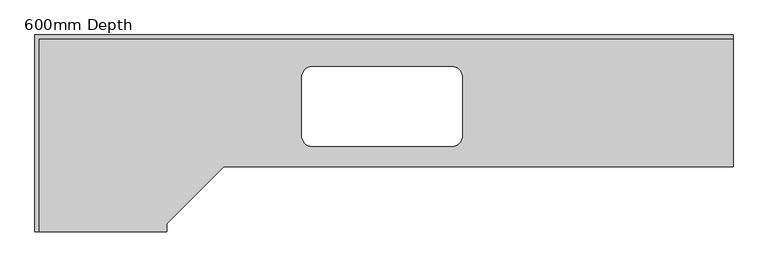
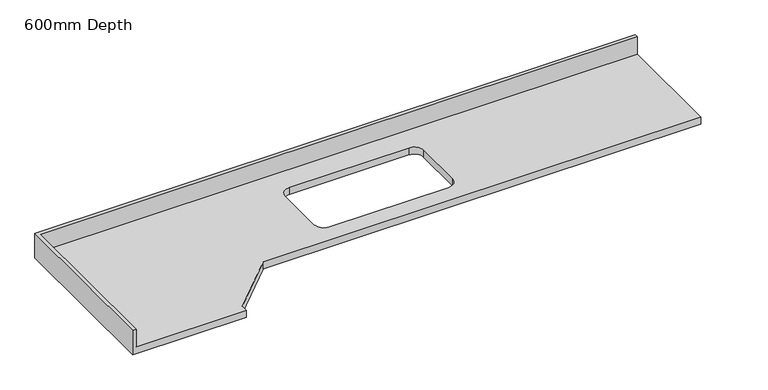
"""IFC4 building model written with IfcOpenShell, lengths in millimetres: furniture geometry, M_Counter Top-L Shaped w Sink Hole 2 : 600mm Depth."""

from ifc_helpers import new_model, si_unit, frame, origin, place, context, project, spatial, polyline, circle_curve, source, transform, mapped, element, save
from ifc_brep_helpers import plane_surface, revolved_surface, advanced_brep


def furniture_600mm_depth_d99565a5(model_context):
    return source(origin(), model_context, "Body", "AdvancedBrep", [
        advanced_brep(
        [(-575.4622951, -932.5161026, 900.0), (-575.4622951, -895.0, 900.0), (-305.4622951, -625.0, 900.0), (2104.5377049, -625.0, 900.0), (2104.5377049, -19.05, 900.0), (-1181.4122951, -19.05, 900.0), (-1181.4122951, -932.5161026, 900.0), (772.6377049, -150.0, 900.0), (822.6377049, -200.0, 900.0), (822.6377049, -478.0, 900.0), (772.6377049, -528.0, 900.0), (112.6377049, -528.0, 900.0), (62.6377049, -478.0, 900.0), (62.6377049, -200.0, 900.0), (112.6377049, -150.0, 900.0), (2104.5377049, 0.0, 860.0), (2104.5377049, -625.0, 860.0), (-305.4622951, -625.0, 860.0), (-575.4622951, -895.0, 860.0), (-575.4622951, -932.5161026, 860.0), (-1200.4622951, -932.5161026, 860.0), (-1200.4622951, 0.0, 860.0), (772.6377049, -150.0, 860.0), (112.6377049, -150.0, 860.0), (62.6377049, -200.0, 860.0), (62.6377049, -478.0, 860.0), (112.6377049, -528.0, 860.0), (772.6377049, -528.0, 860.0), (822.6377049, -478.0, 860.0), (822.6377049, -200.0, 860.0), (-1200.4622951, 0.0, 1001.6), (2104.5377049, 0.0, 1001.6), (-1200.4622951, -932.5161026, 1001.6), (-1181.4122951, -932.5161026, 1001.6), (2104.5377049, -19.05, 1001.6), (-1181.4122951, -19.05, 1001.6)],
        [
            (0, 1),
            (1, 2),
            (2, 3),
            (3, 4),
            (4, 5),
            (5, 6),
            (6, 0),
            (7, 8, circle_curve(frame((772.6377049, -200.0, 900.0), z_axis=(0.0, 0.0, -1.0), x_axis=(1.0, 0.0, 0.0)), 50.0)),
            (8, 9),
            (9, 10, circle_curve(frame((772.6377049, -478.0, 900.0), z_axis=(0.0, 0.0, -1.0), x_axis=(1.0, 0.0, 0.0)), 50.0)),
            (10, 11),
            (11, 12, circle_curve(frame((112.6377049, -478.0, 900.0), z_axis=(0.0, 0.0, -1.0), x_axis=(1.0, 0.0, 0.0)), 50.0)),
            (12, 13),
            (13, 14, circle_curve(frame((112.6377049, -200.0, 900.0), z_axis=(0.0, 0.0, -1.0), x_axis=(1.0, 0.0, 0.0)), 50.0)),
            (14, 7),
            (15, 16),
            (16, 17),
            (17, 18),
            (18, 19),
            (19, 20),
            (20, 21),
            (21, 15),
            (22, 23),
            (23, 24, circle_curve(frame((112.6377049, -200.0, 860.0), z_axis=(0.0, 0.0, 1.0), x_axis=(1.0, 0.0, 0.0)), 50.0)),
            (24, 25),
            (25, 26, circle_curve(frame((112.6377049, -478.0, 860.0), z_axis=(0.0, 0.0, 1.0), x_axis=(1.0, 0.0, 0.0)), 50.0)),
            (26, 27),
            (27, 28, circle_curve(frame((772.6377049, -478.0, 860.0), z_axis=(0.0, 0.0, 1.0), x_axis=(1.0, 0.0, 0.0)), 50.0)),
            (28, 29),
            (29, 22, circle_curve(frame((772.6377049, -200.0, 860.0), z_axis=(0.0, 0.0, 1.0), x_axis=(1.0, 0.0, 0.0)), 50.0)),
            (21, 30),
            (30, 31),
            (31, 15),
            (20, 32),
            (32, 30),
            (19, 0),
            (6, 33),
            (33, 32),
            (18, 1),
            (17, 2),
            (16, 3),
            (31, 34),
            (34, 4),
            (7, 22),
            (29, 8),
            (28, 9),
            (27, 10),
            (26, 11),
            (25, 12),
            (24, 13),
            (23, 14),
            (33, 35),
            (35, 34),
            (35, 5),
        ],
        [
            plane_surface(frame((-1200.4622951, 0.0, 900.0), z_axis=(0.0, 0.0, 1.0), x_axis=(-1.0, 0.0, 0.0))),
            plane_surface(frame((-1200.4622951, 0.0, 860.0), z_axis=(0.0, 0.0, -1.0), x_axis=(1.0, 0.0, 0.0))),
            plane_surface(frame((2104.5377049, 0.0, 900.0), z_axis=(0.0, 1.0, 0.0), x_axis=(0.0, 0.0, -1.0))),
            plane_surface(frame((-1200.4622951, 0.0, 900.0), z_axis=(-1.0, 0.0, 0.0), x_axis=(0.0, 0.0, -1.0))),
            plane_surface(frame((-1200.4622951, -932.5161026, 900.0), z_axis=(0.0, -1.0, 0.0), x_axis=(0.0, 0.0, -1.0))),
            plane_surface(frame((-575.4622951, -932.5161026, 900.0), z_axis=(1.0, 0.0, 0.0), x_axis=(0.0, 0.0, -1.0))),
            plane_surface(frame((-575.4622951, -895.0, 900.0), z_axis=(0.7071067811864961, -0.7071067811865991, 0.0), x_axis=(0.0, 0.0, -1.0))),
            plane_surface(frame((-305.4622951, -625.0, 900.0), z_axis=(0.0, -1.0, 0.0), x_axis=(0.0, 0.0, -1.0))),
            plane_surface(frame((2104.5377049, -625.0, 900.0), z_axis=(1.0, 0.0, 0.0), x_axis=(0.0, 0.0, -1.0))),
            revolved_surface(polyline([(822.6377049, -200.0, 860.0), (822.6377049, -200.0, 900.0)]), (772.6377049, -200.0, 0.0), (0.0, 0.0, -1.0)),
            plane_surface(frame((822.6377049, -200.0, 900.0), z_axis=(-1.0, 0.0, 0.0), x_axis=(0.0, 0.0, -1.0))),
            revolved_surface(polyline([(822.6377049, -478.0, 860.0), (822.6377049, -478.0, 900.0)]), (772.6377049, -478.0, 0.0), (0.0, 0.0, -1.0)),
            plane_surface(frame((772.6377049, -528.0, 900.0), z_axis=(0.0, 1.0, 0.0), x_axis=(0.0, 0.0, -1.0))),
            revolved_surface(polyline([(162.63770490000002, -478.0, 860.0), (162.63770490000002, -478.0, 900.0)]), (112.6377049, -478.0, 0.0), (0.0, 0.0, -1.0)),
            plane_surface(frame((62.6377049, -478.0, 900.0), z_axis=(1.0, 0.0, 0.0), x_axis=(0.0, 0.0, -1.0))),
            revolved_surface(polyline([(162.63770490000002, -200.0, 860.0), (162.63770490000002, -200.0, 900.0)]), (112.6377049, -200.0, 0.0), (0.0, 0.0, -1.0)),
            plane_surface(frame((112.6377049, -150.0, 900.0), z_axis=(0.0, -1.0, 0.0), x_axis=(0.0, 0.0, -1.0))),
            plane_surface(frame((-1200.4622951, 0.0, 1001.6), z_axis=(0.0, 0.0, 1.0), x_axis=(0.0, -1.0, 0.0))),
            plane_surface(frame((-1200.4622951, -19.05, 1001.6), z_axis=(0.0, -1.0, 0.0), x_axis=(0.0, 0.0, -1.0))),
            plane_surface(frame((-1181.4122951, -932.5161026, 1001.6), z_axis=(1.0, 0.0, 0.0), x_axis=(0.0, 0.0, -1.0))),
        ],
        [
            (0, [[1, 2, 3, 4, 5, 6, 7], [8, 9, 10, 11, 12, 13, 14, 15]]),
            (1, [[16, 17, 18, 19, 20, 21, 22], [23, 24, 25, 26, 27, 28, 29, 30]]),
            (2, [[-22, 31, 32, 33]]),
            (3, [[-21, 34, 35, -31]]),
            (4, [[-34, -20, 36, -7, 37, 38]]),
            (5, [[-1, -36, -19, 39]]),
            (6, [[-2, -39, -18, 40]]),
            (7, [[-3, -40, -17, 41]]),
            (8, [[-16, -33, 42, 43, -4, -41]]),
            (9, [[-8, 44, -30, 45]]),
            (10, [[-9, -45, -29, 46]]),
            (11, [[-10, -46, -28, 47]]),
            (12, [[-11, -47, -27, 48]]),
            (13, [[-12, -48, -26, 49]]),
            (14, [[-13, -49, -25, 50]]),
            (15, [[-14, -50, -24, 51]]),
            (16, [[-15, -51, -23, -44]]),
            (17, [[-35, -38, 52, 53, -42, -32]]),
            (18, [[-43, -53, 54, -5]]),
            (19, [[-52, -37, -6, -54]]),
        ],
    ),
    ])


if __name__ == "__main__":
    model = new_model("IFC4")
    model_context = context("Model", 3, world=origin())
    ifc_project = project(units=[si_unit("LENGTHUNIT", "METRE", prefix="MILLI")], contexts=[model_context])
    site = spatial("IfcSite", under=ifc_project)
    building = spatial("IfcBuilding", under=site)
    placement = place(None, origin())
    furniture_600mm_depth_shape = furniture_600mm_depth_d99565a5(model_context)
    element("IfcFurniture", 1, ObjectType="M_Counter Top-L Shaped w Sink Hole 2 : 600mm Depth", at=placement, inside=building, context=model_context, shape_type="MappedRepresentation", body=[
        mapped(furniture_600mm_depth_shape, transform((0.0, 0.0, 0.0), x_axis=(1.0, 0.0, 0.0), y_axis=(0.0, 1.0, 0.0), z_axis=(0.0, 0.0, 1.0))),
    ])
    save(model, "model.ifc")
